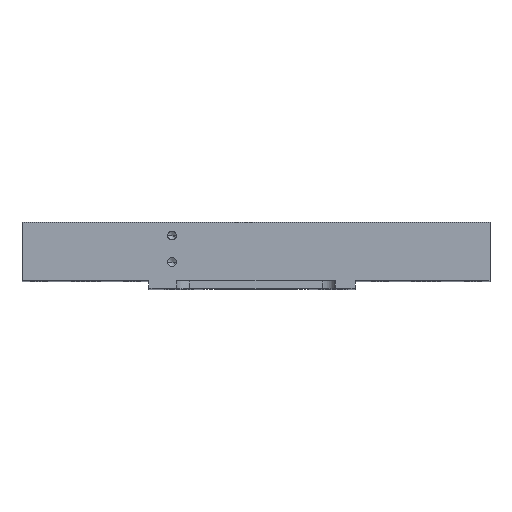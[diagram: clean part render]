
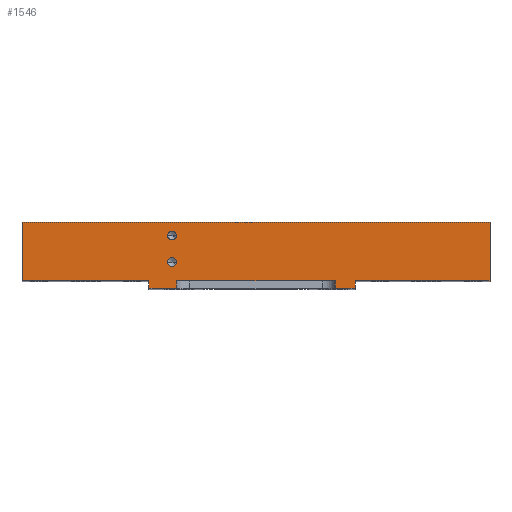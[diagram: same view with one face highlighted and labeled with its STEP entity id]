
A CAD part, top view. The second image highlights one B-rep face of the part: STEP entity #1546.
In plain terms, the highlighted planar face has unit normal (0, 0, 1).
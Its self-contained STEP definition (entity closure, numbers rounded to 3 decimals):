
#53 = DIRECTION ( 'NONE',  ( 0., -1., 0. ) ) ;
#81 = DIRECTION ( 'NONE',  ( 1., 0., 0. ) ) ;
#172 = FACE_BOUND ( 'NONE', #4422, .T. ) ;
#248 = CARTESIAN_POINT ( 'NONE',  ( 58.5, 3., 245. ) ) ;
#276 = CARTESIAN_POINT ( 'NONE',  ( 58.5, 3., 245. ) ) ;
#281 = CARTESIAN_POINT ( 'NONE',  ( 177., 25., 245. ) ) ;
#332 = EDGE_CURVE ( 'NONE', #6265, #2471, #2871, .T. ) ;
#374 = DIRECTION ( 'NONE',  ( 0., 0., 1. ) ) ;
#567 = VERTEX_POINT ( 'NONE', #3904 ) ;
#624 = AXIS2_PLACEMENT_3D ( 'NONE', #3676, #1894, #3097 ) ;
#662 = DIRECTION ( 'NONE',  ( -1., 0., 0. ) ) ;
#663 = CARTESIAN_POINT ( 'NONE',  ( 126., 3., 245. ) ) ;
#670 = VERTEX_POINT ( 'NONE', #5121 ) ;
#811 = LINE ( 'NONE', #5450, #7355 ) ;
#905 = ORIENTED_EDGE ( 'NONE', *, *, #7429, .T. ) ;
#934 = EDGE_CURVE ( 'NONE', #1140, #2187, #6784, .T. ) ;
#943 = ORIENTED_EDGE ( 'NONE', *, *, #7362, .F. ) ;
#963 = LINE ( 'NONE', #281, #4526 ) ;
#1117 = VERTEX_POINT ( 'NONE', #5328 ) ;
#1130 = EDGE_LOOP ( 'NONE', ( #1886, #4277 ) ) ;
#1140 = VERTEX_POINT ( 'NONE', #663 ) ;
#1224 = DIRECTION ( 'NONE',  ( 0., 0., 1. ) ) ;
#1233 = VERTEX_POINT ( 'NONE', #1477 ) ;
#1234 = EDGE_CURVE ( 'NONE', #7473, #6872, #811, .T. ) ;
#1240 = VECTOR ( 'NONE', #2015, 1000. ) ;
#1420 = VECTOR ( 'NONE', #6262, 1000. ) ;
#1442 = CIRCLE ( 'NONE', #624, 1.65 ) ;
#1477 = CARTESIAN_POINT ( 'NONE',  ( 48., 3., 245. ) ) ;
#1531 = DIRECTION ( 'NONE',  ( 0., -1., 0. ) ) ;
#1546 = ADVANCED_FACE ( 'NONE', ( #172, #1927, #7715 ), #4274, .T. ) ;
#1597 = LINE ( 'NONE', #3940, #1420 ) ;
#1753 = ORIENTED_EDGE ( 'NONE', *, *, #3891, .T. ) ;
#1784 = CARTESIAN_POINT ( 'NONE',  ( 56.7, 20., 245. ) ) ;
#1788 = VECTOR ( 'NONE', #662, 1000. ) ;
#1879 = DIRECTION ( 'NONE',  ( 0., -1., 0. ) ) ;
#1886 = ORIENTED_EDGE ( 'NONE', *, *, #5100, .F. ) ;
#1894 = DIRECTION ( 'NONE',  ( 0., 0., 1. ) ) ;
#1907 = EDGE_CURVE ( 'NONE', #6913, #5394, #6964, .T. ) ;
#1923 = CIRCLE ( 'NONE', #3707, 1.65 ) ;
#1927 = FACE_BOUND ( 'NONE', #1130, .T. ) ;
#1938 = EDGE_CURVE ( 'NONE', #2187, #2239, #2848, .T. ) ;
#2005 = LINE ( 'NONE', #5384, #6936 ) ;
#2015 = DIRECTION ( 'NONE',  ( 0., -1., 0. ) ) ;
#2073 = CARTESIAN_POINT ( 'NONE',  ( 0., 25., 245. ) ) ;
#2121 = CIRCLE ( 'NONE', #2889, 1.65 ) ;
#2187 = VERTEX_POINT ( 'NONE', #5178 ) ;
#2217 = DIRECTION ( 'NONE',  ( 1., 0., 0. ) ) ;
#2239 = VERTEX_POINT ( 'NONE', #5198 ) ;
#2280 = ORIENTED_EDGE ( 'NONE', *, *, #4407, .T. ) ;
#2406 = ORIENTED_EDGE ( 'NONE', *, *, #332, .T. ) ;
#2471 = VERTEX_POINT ( 'NONE', #6032 ) ;
#2684 = DIRECTION ( 'NONE',  ( -1., 0., 0. ) ) ;
#2818 = CARTESIAN_POINT ( 'NONE',  ( 177., 3., 245. ) ) ;
#2819 = LINE ( 'NONE', #3895, #6973 ) ;
#2848 = LINE ( 'NONE', #2818, #6115 ) ;
#2851 = EDGE_CURVE ( 'NONE', #670, #5223, #1442, .T. ) ;
#2871 = LINE ( 'NONE', #2073, #4653 ) ;
#2889 = AXIS2_PLACEMENT_3D ( 'NONE', #1784, #4819, #3641 ) ;
#3096 = CARTESIAN_POINT ( 'NONE',  ( 48., 0., 245. ) ) ;
#3097 = DIRECTION ( 'NONE',  ( 1., 0., 0. ) ) ;
#3152 = CARTESIAN_POINT ( 'NONE',  ( 118.5, 3., 245. ) ) ;
#3466 = DIRECTION ( 'NONE',  ( 1., 0., 0. ) ) ;
#3517 = ORIENTED_EDGE ( 'NONE', *, *, #5798, .F. ) ;
#3641 = DIRECTION ( 'NONE',  ( 1., 0., 0. ) ) ;
#3676 = CARTESIAN_POINT ( 'NONE',  ( 56.7, 20., 245. ) ) ;
#3705 = LINE ( 'NONE', #5319, #6113 ) ;
#3707 = AXIS2_PLACEMENT_3D ( 'NONE', #4228, #1224, #81 ) ;
#3759 = DIRECTION ( 'NONE',  ( 0., 0., 1. ) ) ;
#3832 = AXIS2_PLACEMENT_3D ( 'NONE', #5438, #3759, #5566 ) ;
#3891 = EDGE_CURVE ( 'NONE', #2471, #1233, #1597, .T. ) ;
#3895 = CARTESIAN_POINT ( 'NONE',  ( 48., 0., 245. ) ) ;
#3904 = CARTESIAN_POINT ( 'NONE',  ( 126., 0., 245. ) ) ;
#3915 = CARTESIAN_POINT ( 'NONE',  ( 118.5, 0., 245. ) ) ;
#3940 = CARTESIAN_POINT ( 'NONE',  ( 0., 3., 245. ) ) ;
#4228 = CARTESIAN_POINT ( 'NONE',  ( 56.7, 10., 245. ) ) ;
#4274 = PLANE ( 'NONE',  #3832 ) ;
#4277 = ORIENTED_EDGE ( 'NONE', *, *, #2851, .F. ) ;
#4326 = LINE ( 'NONE', #3096, #7101 ) ;
#4407 = EDGE_CURVE ( 'NONE', #6872, #567, #2819, .T. ) ;
#4422 = EDGE_LOOP ( 'NONE', ( #6868, #5463 ) ) ;
#4443 = EDGE_LOOP ( 'NONE', ( #3517, #943, #7388, #2280, #5389, #5038, #6824, #5159, #2406, #1753, #6625, #905 ) ) ;
#4526 = VECTOR ( 'NONE', #2684, 1000. ) ;
#4579 = VERTEX_POINT ( 'NONE', #7722 ) ;
#4653 = VECTOR ( 'NONE', #6237, 1000. ) ;
#4819 = DIRECTION ( 'NONE',  ( 0., 0., 1. ) ) ;
#4968 = LINE ( 'NONE', #6565, #1788 ) ;
#5038 = ORIENTED_EDGE ( 'NONE', *, *, #934, .T. ) ;
#5100 = EDGE_CURVE ( 'NONE', #5223, #670, #2121, .T. ) ;
#5121 = CARTESIAN_POINT ( 'NONE',  ( 55.05, 20., 245. ) ) ;
#5138 = EDGE_CURVE ( 'NONE', #5394, #6913, #1923, .T. ) ;
#5159 = ORIENTED_EDGE ( 'NONE', *, *, #6349, .T. ) ;
#5168 = EDGE_CURVE ( 'NONE', #1140, #567, #3705, .T. ) ;
#5172 = LINE ( 'NONE', #248, #1240 ) ;
#5178 = CARTESIAN_POINT ( 'NONE',  ( 177., 3., 245. ) ) ;
#5188 = CARTESIAN_POINT ( 'NONE',  ( 56.7, 10., 245. ) ) ;
#5198 = CARTESIAN_POINT ( 'NONE',  ( 177., 25., 245. ) ) ;
#5203 = VECTOR ( 'NONE', #3466, 1000. ) ;
#5223 = VERTEX_POINT ( 'NONE', #5472 ) ;
#5243 = CARTESIAN_POINT ( 'NONE',  ( 129., 3., 245. ) ) ;
#5319 = CARTESIAN_POINT ( 'NONE',  ( 126., 3., 245. ) ) ;
#5328 = CARTESIAN_POINT ( 'NONE',  ( 48., 0., 245. ) ) ;
#5384 = CARTESIAN_POINT ( 'NONE',  ( 48., 3., 245. ) ) ;
#5389 = ORIENTED_EDGE ( 'NONE', *, *, #5168, .F. ) ;
#5394 = VERTEX_POINT ( 'NONE', #6337 ) ;
#5438 = CARTESIAN_POINT ( 'NONE',  ( 0., 0., 245. ) ) ;
#5450 = CARTESIAN_POINT ( 'NONE',  ( 118.5, 3., 245. ) ) ;
#5463 = ORIENTED_EDGE ( 'NONE', *, *, #5138, .F. ) ;
#5472 = CARTESIAN_POINT ( 'NONE',  ( 58.35, 20., 245. ) ) ;
#5485 = CARTESIAN_POINT ( 'NONE',  ( 0., 25., 245. ) ) ;
#5566 = DIRECTION ( 'NONE',  ( 1., 0., 0. ) ) ;
#5679 = DIRECTION ( 'NONE',  ( 1., 0., 0. ) ) ;
#5798 = EDGE_CURVE ( 'NONE', #7554, #4579, #5172, .T. ) ;
#6032 = CARTESIAN_POINT ( 'NONE',  ( 0., 3., 245. ) ) ;
#6113 = VECTOR ( 'NONE', #53, 1000. ) ;
#6115 = VECTOR ( 'NONE', #6967, 1000. ) ;
#6116 = EDGE_CURVE ( 'NONE', #1233, #1117, #2005, .T. ) ;
#6118 = DIRECTION ( 'NONE',  ( 1., 0., 0. ) ) ;
#6237 = DIRECTION ( 'NONE',  ( 0., -1., 0. ) ) ;
#6262 = DIRECTION ( 'NONE',  ( 1., 0., 0. ) ) ;
#6265 = VERTEX_POINT ( 'NONE', #5485 ) ;
#6285 = CARTESIAN_POINT ( 'NONE',  ( 58.35, 10., 245. ) ) ;
#6337 = CARTESIAN_POINT ( 'NONE',  ( 55.05, 10., 245. ) ) ;
#6349 = EDGE_CURVE ( 'NONE', #2239, #6265, #963, .T. ) ;
#6471 = AXIS2_PLACEMENT_3D ( 'NONE', #5188, #374, #2217 ) ;
#6565 = CARTESIAN_POINT ( 'NONE',  ( 58.5, 3., 245. ) ) ;
#6625 = ORIENTED_EDGE ( 'NONE', *, *, #6116, .T. ) ;
#6784 = LINE ( 'NONE', #5243, #5203 ) ;
#6824 = ORIENTED_EDGE ( 'NONE', *, *, #1938, .T. ) ;
#6868 = ORIENTED_EDGE ( 'NONE', *, *, #1907, .F. ) ;
#6872 = VERTEX_POINT ( 'NONE', #3915 ) ;
#6913 = VERTEX_POINT ( 'NONE', #6285 ) ;
#6936 = VECTOR ( 'NONE', #1879, 1000. ) ;
#6964 = CIRCLE ( 'NONE', #6471, 1.65 ) ;
#6967 = DIRECTION ( 'NONE',  ( 0., 1., 0. ) ) ;
#6973 = VECTOR ( 'NONE', #5679, 1000. ) ;
#7101 = VECTOR ( 'NONE', #6118, 1000. ) ;
#7355 = VECTOR ( 'NONE', #1531, 1000. ) ;
#7362 = EDGE_CURVE ( 'NONE', #7473, #7554, #4968, .T. ) ;
#7388 = ORIENTED_EDGE ( 'NONE', *, *, #1234, .T. ) ;
#7429 = EDGE_CURVE ( 'NONE', #1117, #4579, #4326, .T. ) ;
#7473 = VERTEX_POINT ( 'NONE', #3152 ) ;
#7554 = VERTEX_POINT ( 'NONE', #276 ) ;
#7715 = FACE_OUTER_BOUND ( 'NONE', #4443, .T. ) ;
#7722 = CARTESIAN_POINT ( 'NONE',  ( 58.5, 0., 245. ) ) ;
